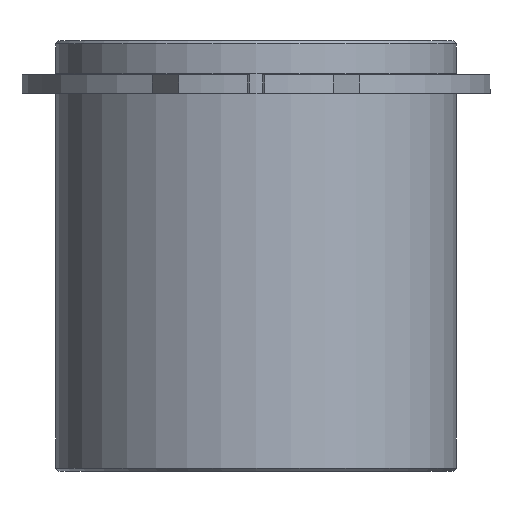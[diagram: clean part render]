
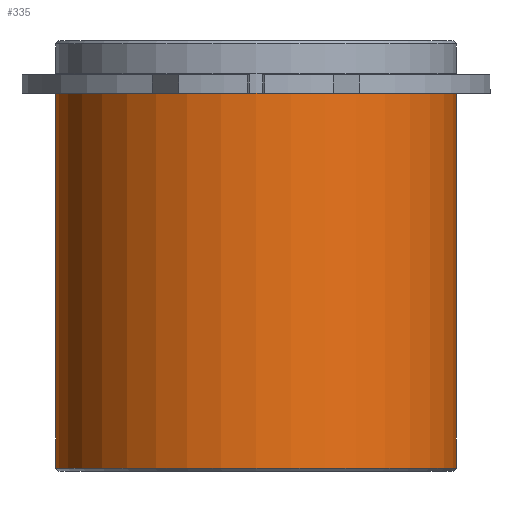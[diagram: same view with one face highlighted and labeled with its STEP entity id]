
A CAD part, front view. The second image highlights one B-rep face of the part: STEP entity #335.
In plain terms, the highlighted cylindrical face has radius 18.625 mm (diameter 37.25 mm), a partial arc.
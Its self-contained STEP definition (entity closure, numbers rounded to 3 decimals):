
#294=CARTESIAN_POINT('',(0.0,0.,-17.4));
#295=DIRECTION('',(0.0,0.,1.0));
#296=DIRECTION('',(1.0,0.0,0.0));
#297=AXIS2_PLACEMENT_3D('',#294,#295,#296);
#298=CYLINDRICAL_SURFACE('',#297,18.625);
#299=CARTESIAN_POINT('',(18.625,0.0,0.0));
#300=VERTEX_POINT('',#299);
#301=CARTESIAN_POINT('',(18.625,0.,-34.8));
#302=VERTEX_POINT('',#301);
#303=CARTESIAN_POINT('',(18.625,0.0,0.0));
#304=DIRECTION('',(0.0,0.0,-1.0));
#305=VECTOR('',#304,34.8);
#306=LINE('',#303,#305);
#307=EDGE_CURVE('',#300,#302,#306,.T.);
#308=ORIENTED_EDGE('',*,*,#307,.F.);
#309=CARTESIAN_POINT('',(-18.625,0.,0.0));
#310=VERTEX_POINT('',#309);
#311=CARTESIAN_POINT('',(0.0,0.0,0.0));
#312=DIRECTION('',(0.0,0.0,1.0));
#313=DIRECTION('',(1.0,0.0,0.0));
#314=AXIS2_PLACEMENT_3D('',#311,#312,#313);
#315=CIRCLE('',#314,18.625);
#316=EDGE_CURVE('',#310,#300,#315,.T.);
#317=ORIENTED_EDGE('',*,*,#316,.F.);
#318=CARTESIAN_POINT('',(-18.625,0.,-34.8));
#319=VERTEX_POINT('',#318);
#320=CARTESIAN_POINT('',(-18.625,0.,0.0));
#321=DIRECTION('',(0.0,0.0,-1.0));
#322=VECTOR('',#321,34.8);
#323=LINE('',#320,#322);
#324=EDGE_CURVE('',#310,#319,#323,.T.);
#325=ORIENTED_EDGE('',*,*,#324,.T.);
#326=CARTESIAN_POINT('',(0.0,0.,-34.8));
#327=DIRECTION('',(0.0,0.0,1.0));
#328=DIRECTION('',(1.0,0.0,0.0));
#329=AXIS2_PLACEMENT_3D('',#326,#327,#328);
#330=CIRCLE('',#329,18.625);
#331=EDGE_CURVE('',#319,#302,#330,.T.);
#332=ORIENTED_EDGE('',*,*,#331,.T.);
#333=EDGE_LOOP('',(#308,#317,#325,#332));
#334=FACE_OUTER_BOUND('',#333,.T.);
#335=ADVANCED_FACE('',(#334),#298,.T.);
